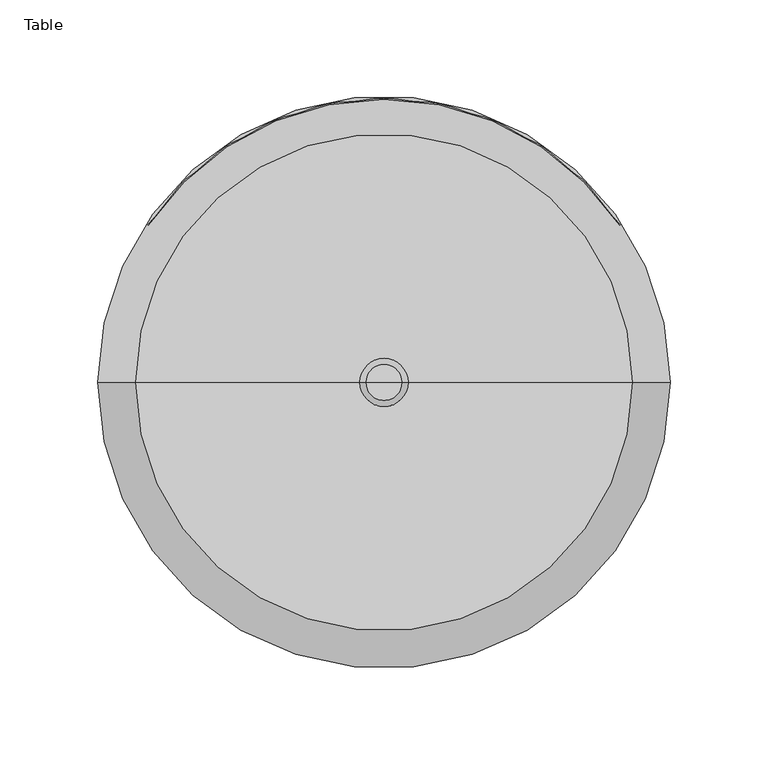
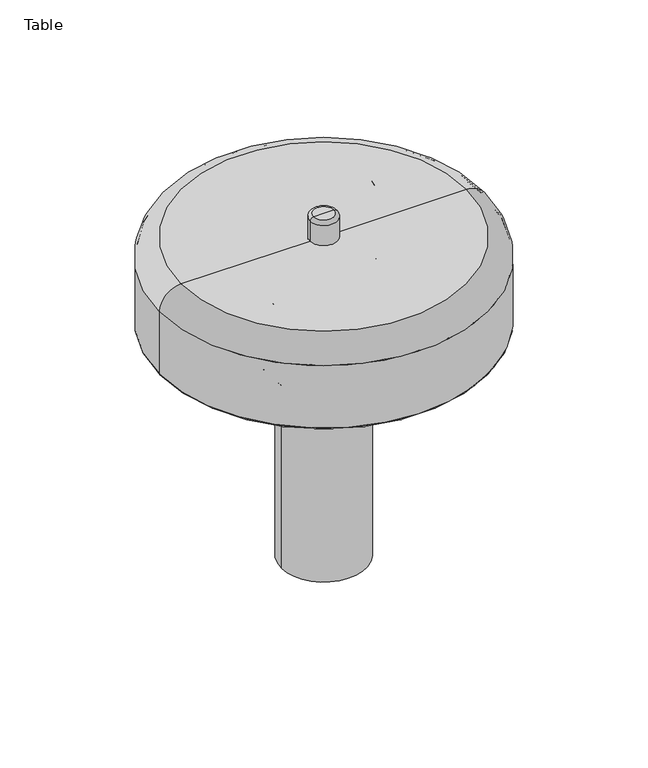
"""IFC4 building model written with IfcOpenShell, lengths in millimetres: furniture geometry, Blu Dot - Punk - Lamp : Table."""

from ifc_helpers import new_model, si_unit, point, frame, origin, origin_with_axes, origin_2d, place, context, project, spatial, polyline, circle_curve, ellipse_curve, trimmed, segment, composite_curve, outline, extrude, source, transform, mapped, element, save
from ifc_brep_helpers import plane_surface, cylinder_surface, revolved_surface, advanced_brep


def table_88db3fc4(model_context):
    return source(origin(), model_context, "Body", "SolidModel", [
        advanced_brep(
        [(-12.2418277, 0.0, 295.983939), (12.2418277, 0.0, 295.983939), (12.2418277, 0.0, 296.999939), (-12.2418277, 0.0, 296.999939), (126.9999924, 0.0, 296.999939), (-126.9999924, 0.0, 296.999939), (144.984, 0.0, 278.949939), (-144.984, 0.0, 278.949939), (144.984, 0.0, 219.9999542), (-144.984, 0.0, 219.9999542), (136.445816, 0.0, 219.9999542), (-136.445816, 0.0, 219.9999542), (136.445816, 0.0, 221.0159542), (-136.445816, 0.0, 221.0159542), (-126.9999924, 0.0, 295.983939), (126.9999924, 0.0, 295.983939), (-143.968, 0.0, 278.949939), (143.968, 0.0, 278.949939), (-143.968, 0.0, 221.0159542), (143.968, 0.0, 221.0159542)],
        [
            (0, 1, circle_curve(frame((0.0, 0.0, 295.983939), z_axis=(0.0, 0.0, -1.0), x_axis=(1.0, 0.0, 0.0)), 12.2418277)),
            (1, 2),
            (2, 3, circle_curve(frame((0.0, 0.0, 296.999939), z_axis=(0.0, 0.0, 1.0), x_axis=(1.0, 0.0, 0.0)), 12.2418277)),
            (3, 0),
            (1, 0, circle_curve(frame((0.0, 0.0, 295.983939), z_axis=(0.0, 0.0, -1.0), x_axis=(1.0, 0.0, 0.0)), 12.2418277)),
            (3, 2, circle_curve(frame((0.0, 0.0, 296.999939), z_axis=(0.0, 0.0, 1.0), x_axis=(1.0, 0.0, 0.0)), 12.2418277)),
            (2, 4),
            (4, 5, circle_curve(frame((0.0, 0.0, 296.999939), z_axis=(0.0, 0.0, 1.0), x_axis=(1.0, 0.0, 0.0)), 126.9999924)),
            (5, 3),
            (5, 4, circle_curve(frame((0.0, 0.0, 296.999939), z_axis=(0.0, 0.0, 1.0), x_axis=(1.0, 0.0, 0.0)), 126.9999924)),
            (4, 6, circle_curve(frame((126.95, 0.0, 278.949939), z_axis=(0.0, 1.0, 0.0), x_axis=(1.0, 0.0, 0.0)), 18.034)),
            (6, 7, circle_curve(frame((0.0, 0.0, 278.949939), z_axis=(0.0, 0.0, 1.0), x_axis=(1.0, 0.0, 0.0)), 144.984)),
            (7, 5, circle_curve(frame((-126.95, 0.0, 278.949939), z_axis=(0.0, 1.0, 0.0), x_axis=(-1.0, 0.0, 0.0)), 18.034)),
            (7, 6, circle_curve(frame((0.0, 0.0, 278.949939), z_axis=(0.0, 0.0, 1.0), x_axis=(1.0, 0.0, 0.0)), 144.984)),
            (6, 8),
            (8, 9, circle_curve(frame((0.0, 0.0, 219.9999542), z_axis=(0.0, 0.0, 1.0), x_axis=(1.0, 0.0, 0.0)), 144.984)),
            (9, 7),
            (9, 8, circle_curve(frame((0.0, 0.0, 219.9999542), z_axis=(0.0, 0.0, 1.0), x_axis=(1.0, 0.0, 0.0)), 144.984)),
            (8, 10),
            (10, 11, circle_curve(frame((0.0, 0.0, 219.9999542), z_axis=(0.0, 0.0, 1.0), x_axis=(1.0, 0.0, 0.0)), 136.445816)),
            (11, 9),
            (11, 10, circle_curve(frame((0.0, 0.0, 219.9999542), z_axis=(0.0, 0.0, 1.0), x_axis=(1.0, 0.0, 0.0)), 136.445816)),
            (10, 12),
            (12, 13, circle_curve(frame((0.0, 0.0, 221.0159542), z_axis=(0.0, 0.0, 1.0), x_axis=(1.0, 0.0, 0.0)), 136.445816)),
            (13, 11),
            (13, 12, circle_curve(frame((0.0, 0.0, 221.0159542), z_axis=(0.0, 0.0, 1.0), x_axis=(1.0, 0.0, 0.0)), 136.445816)),
            (14, 15, circle_curve(frame((0.0, 0.0, 295.983939), z_axis=(0.0, 0.0, -1.0), x_axis=(1.0, 0.0, 0.0)), 126.9999924)),
            (15, 1),
            (0, 14),
            (15, 14, circle_curve(frame((0.0, 0.0, 295.983939), z_axis=(0.0, 0.0, -1.0), x_axis=(1.0, 0.0, 0.0)), 126.9999924)),
            (16, 17, circle_curve(frame((0.0, 0.0, 278.949939), z_axis=(0.0, 0.0, -1.0), x_axis=(1.0, 0.0, 0.0)), 143.968)),
            (17, 15, circle_curve(frame((126.95, 0.0, 278.949939), z_axis=(0.0, -1.0, 0.0), x_axis=(1.0, 0.0, 0.0)), 17.018)),
            (14, 16, circle_curve(frame((-126.95, 0.0, 278.949939), z_axis=(0.0, -1.0, 0.0), x_axis=(-1.0, 0.0, 0.0)), 17.018)),
            (17, 16, circle_curve(frame((0.0, 0.0, 278.949939), z_axis=(0.0, 0.0, -1.0), x_axis=(1.0, 0.0, 0.0)), 143.968)),
            (18, 19, circle_curve(frame((0.0, 0.0, 221.0159542), z_axis=(0.0, 0.0, -1.0), x_axis=(1.0, 0.0, 0.0)), 143.968)),
            (19, 17),
            (16, 18),
            (19, 18, circle_curve(frame((0.0, 0.0, 221.0159542), z_axis=(0.0, 0.0, -1.0), x_axis=(1.0, 0.0, 0.0)), 143.968)),
            (12, 19),
            (18, 13),
        ],
        [
            revolved_surface(polyline([(12.2418277, 0.0, 296.999939), (12.2418277, 0.0, 295.983939)]), (0.0, 0.0, 355.149939), (0.0, 0.0, 1.0)),
            plane_surface(frame((0.0, 0.0, 296.999939), z_axis=(0.0, 0.0, 1.0), x_axis=(1.0, 0.0, 0.0))),
            revolved_surface(trimmed(ellipse_curve(frame((126.95, 0.0, 278.949939), z_axis=(0.0, -1.0, 0.0), x_axis=(1.0, 0.0, 0.0)), 18.034, 18.034), [point((144.984, 0.0, 278.949939))], [point((126.95, 0.0, 296.983939))], True, "CARTESIAN"), (0.0, 0.0, 355.149939), (0.0, 0.0, 1.0)),
            cylinder_surface(frame((0.0, 0.0, 355.149939), z_axis=(0.0, 0.0, 1.0), x_axis=(1.0, 0.0, 0.0)), 144.984),
            plane_surface(frame((0.0, 0.0, 219.9999542), z_axis=(0.0, 0.0, -1.0), x_axis=(1.0, 0.0, 0.0))),
            revolved_surface(polyline([(136.445816, 0.0, 221.0159542), (136.445816, 0.0, 219.9999542)]), (0.0, 0.0, 355.149939), (0.0, 0.0, 1.0)),
            plane_surface(frame((0.0, 0.0, 295.983939), z_axis=(0.0, 0.0, -1.0), x_axis=(1.0, 0.0, 0.0))),
            revolved_surface(trimmed(ellipse_curve(frame((126.95, 0.0, 278.949939), z_axis=(0.0, 1.0, 0.0), x_axis=(1.0, 0.0, 0.0)), 17.018, 17.018), [point((126.95, 0.0, 295.967939))], [point((143.968, 0.0, 278.949939))], True, "CARTESIAN"), (0.0, 0.0, 355.149939), (0.0, 0.0, 1.0)),
            revolved_surface(polyline([(143.968, 0.0, 278.949939), (143.968, 0.0, 221.0159542)]), (0.0, 0.0, 355.149939), (0.0, 0.0, 1.0)),
            plane_surface(frame((0.0, 0.0, 221.0159542), z_axis=(0.0, 0.0, 1.0), x_axis=(1.0, 0.0, 0.0))),
        ],
        [
            (0, [[1, 2, 3, 4]]),
            (0, [[5, -4, 6, -2]]),
            (1, [[-3, 7, 8, 9]]),
            (1, [[-6, -9, 10, -7]]),
            (2, [[-8, 11, 12, 13]]),
            (2, [[-10, -13, 14, -11]]),
            (3, [[-12, 15, 16, 17]]),
            (3, [[-14, -17, 18, -15]]),
            (4, [[-16, 19, 20, 21]]),
            (4, [[-18, -21, 22, -19]]),
            (5, [[-20, 23, 24, 25]]),
            (5, [[-22, -25, 26, -23]]),
            (6, [[27, 28, -1, 29]]),
            (6, [[30, -29, -5, -28]]),
            (7, [[31, 32, -27, 33]]),
            (7, [[34, -33, -30, -32]]),
            (8, [[35, 36, -31, 37]]),
            (8, [[38, -37, -34, -36]]),
            (9, [[-24, 39, -35, 40]]),
            (9, [[-26, -40, -38, -39]]),
        ],
    ),
        advanced_brep(
        [(-84.4999695, -75.9999847, 237.5251263), (-84.4999695, -75.9999847, 276.4748126), (-81.4748432, -75.9999847, 279.499939), (-81.4748432, -75.9999847, 234.5), (-84.4999695, -75.9999847, 251.3499756), (-84.4999695, -75.9999847, 262.6499634), (-85.4999695, -75.9999847, 251.3499756), (-85.4999695, -75.9999847, 262.6499634), (-85.4999695, -75.9999847, 256.9999695), (-20.4999809, -75.9999847, 279.499939), (-20.4999809, -75.9999847, 234.5), (-81.4999924, -75.9999847, 238.1942937), (-81.4999924, -75.9999847, 275.8056453), (-81.4999924, -75.9999847, 256.9999695), (-20.4999809, -75.9999847, 236.0797424), (-20.4999809, -75.9999847, 277.9201965), (-24.0000059, -75.9999847, 277.9201965), (-24.0000059, -75.9999847, 236.0797424), (-24.0000059, -75.9999847, 238.1942937), (-24.0000059, -75.9999847, 275.8056453)],
        [
            (0, 1, circle_curve(frame((-84.4999695, -75.9999847, 256.9999695), z_axis=(1.0, 0.0, 0.0), x_axis=(0.0, 0.0, 1.0)), 19.4748432)),
            (1, 2, circle_curve(frame((-81.4748432, -75.9999847, 276.4748126), z_axis=(0.0, 1.0, 0.0), x_axis=(1.0, 0.0, 0.0)), 3.0251263)),
            (2, 3, circle_curve(frame((-81.4748432, -75.9999847, 256.9999695), z_axis=(-1.0, 0.0, 0.0), x_axis=(0.0, 0.0, 1.0)), 22.4999695)),
            (3, 0, circle_curve(frame((-81.4748432, -75.9999847, 237.5251263), z_axis=(0.0, 1.0, 0.0), x_axis=(1.0, 0.0, 0.0)), 3.0251263)),
            (1, 0, circle_curve(frame((-84.4999695, -75.9999847, 256.9999695), z_axis=(1.0, 0.0, 0.0), x_axis=(0.0, 0.0, 1.0)), 19.4748432)),
            (3, 2, circle_curve(frame((-81.4748432, -75.9999847, 256.9999695), z_axis=(-1.0, 0.0, 0.0), x_axis=(0.0, 0.0, 1.0)), 22.4999695)),
            (4, 5, circle_curve(frame((-84.4999695, -75.9999847, 256.9999695), z_axis=(1.0, 0.0, 0.0), x_axis=(0.0, 0.0, 1.0)), 5.6499939)),
            (5, 1),
            (0, 4),
            (5, 4, circle_curve(frame((-84.4999695, -75.9999847, 256.9999695), z_axis=(1.0, 0.0, 0.0), x_axis=(0.0, 0.0, 1.0)), 5.6499939)),
            (6, 7, circle_curve(frame((-85.4999695, -75.9999847, 256.9999695), z_axis=(1.0, 0.0, 0.0), x_axis=(0.0, 0.0, 1.0)), 5.6499939)),
            (7, 5),
            (4, 6),
            (7, 6, circle_curve(frame((-85.4999695, -75.9999847, 256.9999695), z_axis=(1.0, 0.0, 0.0), x_axis=(0.0, 0.0, 1.0)), 5.6499939)),
            (8, 7),
            (6, 8),
            (2, 9),
            (9, 10, circle_curve(frame((-20.4999809, -75.9999847, 256.9999695), z_axis=(-1.0, 0.0, 0.0), x_axis=(0.0, 0.0, 1.0)), 22.4999695)),
            (10, 3),
            (10, 9, circle_curve(frame((-20.4999809, -75.9999847, 256.9999695), z_axis=(-1.0, 0.0, 0.0), x_axis=(0.0, 0.0, 1.0)), 22.4999695)),
            (11, 12, circle_curve(frame((-81.4999924, -75.9999847, 256.9999695), z_axis=(1.0, 0.0, 0.0), x_axis=(0.0, 0.0, 1.0)), 18.8056758)),
            (12, 13),
            (13, 11),
            (12, 11, circle_curve(frame((-81.4999924, -75.9999847, 256.9999695), z_axis=(1.0, 0.0, 0.0), x_axis=(0.0, 0.0, 1.0)), 18.8056758)),
            (14, 15, circle_curve(frame((-20.4999809, -75.9999847, 256.9999695), z_axis=(1.0, 0.0, 0.0), x_axis=(0.0, 0.0, 1.0)), 20.9202271)),
            (15, 16),
            (16, 17, circle_curve(frame((-24.0000059, -75.9999847, 256.9999695), z_axis=(-1.0, 0.0, 0.0), x_axis=(0.0, 0.0, 1.0)), 20.9202271)),
            (17, 14),
            (15, 14, circle_curve(frame((-20.4999809, -75.9999847, 256.9999695), z_axis=(1.0, 0.0, 0.0), x_axis=(0.0, 0.0, 1.0)), 20.9202271)),
            (17, 16, circle_curve(frame((-24.0000059, -75.9999847, 256.9999695), z_axis=(-1.0, 0.0, 0.0), x_axis=(0.0, 0.0, 1.0)), 20.9202271)),
            (9, 15),
            (14, 10),
            (18, 19, circle_curve(frame((-24.0000059, -75.9999847, 256.9999695), z_axis=(1.0, 0.0, 0.0), x_axis=(0.0, 0.0, 1.0)), 18.8056758)),
            (19, 12),
            (11, 18),
            (19, 18, circle_curve(frame((-24.0000059, -75.9999847, 256.9999695), z_axis=(1.0, 0.0, 0.0), x_axis=(0.0, 0.0, 1.0)), 18.8056758)),
            (16, 19),
            (18, 17),
        ],
        [
            revolved_surface(trimmed(ellipse_curve(frame((-81.4748432, -75.9999847, 276.4748126), z_axis=(0.0, -1.0, 0.0), x_axis=(1.0, 0.0, 0.0)), 3.0251263, 3.0251263), [point((-81.4748432, -75.9999847, 279.499939))], [point((-84.4999695, -75.9999847, 276.4748126))], True, "CARTESIAN"), (-85.4999695, -75.9999847, 256.9999695), (-1.0, 0.0, 0.0)),
            plane_surface(frame((-84.4999695, -75.9999847, 256.9999695), z_axis=(-1.0, 0.0, 0.0), x_axis=(0.0, 0.0, 1.0))),
            cylinder_surface(frame((-85.4999695, -75.9999847, 256.9999695), z_axis=(-1.0, 0.0, 0.0), x_axis=(0.0, 0.0, 1.0)), 5.6499939),
            plane_surface(frame((-85.4999695, -75.9999847, 256.9999695), z_axis=(-1.0, 0.0, 0.0), x_axis=(0.0, 0.0, 1.0))),
            cylinder_surface(frame((-85.4999695, -75.9999847, 256.9999695), z_axis=(-1.0, 0.0, 0.0), x_axis=(0.0, 0.0, 1.0)), 22.4999695),
            plane_surface(frame((-81.4999924, -75.9999847, 256.9999695), z_axis=(1.0, 0.0, 0.0), x_axis=(0.0, 0.0, 1.0))),
            revolved_surface(polyline([(-24.000005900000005, -75.9999847, 277.9201966), (-20.499980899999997, -75.9999847, 277.9201966)]), (-85.4999695, -75.9999847, 256.9999695), (-1.0, 0.0, 0.0)),
            plane_surface(frame((-20.4999809, -75.9999847, 256.9999695), z_axis=(1.0, 0.0, 0.0), x_axis=(0.0, 0.0, 1.0))),
            revolved_surface(polyline([(-81.4999924, -75.9999847, 275.80564530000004), (-24.000005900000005, -75.9999847, 275.80564530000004)]), (-85.4999695, -75.9999847, 256.9999695), (-1.0, 0.0, 0.0)),
            plane_surface(frame((-24.0000059, -75.9999847, 256.9999695), z_axis=(1.0, 0.0, 0.0), x_axis=(0.0, 0.0, 1.0))),
        ],
        [
            (0, [[1, 2, 3, 4]]),
            (0, [[5, -4, 6, -2]]),
            (1, [[7, 8, -1, 9]]),
            (1, [[10, -9, -5, -8]]),
            (2, [[11, 12, -7, 13]]),
            (2, [[14, -13, -10, -12]]),
            (3, [[15, -11, 16]]),
            (3, [[-16, -14, -15]]),
            (4, [[-3, 17, 18, 19]]),
            (4, [[-6, -19, 20, -17]]),
            (5, [[21, 22, 23]]),
            (5, [[24, -23, -22]]),
            (6, [[25, 26, 27, 28]]),
            (6, [[29, -28, 30, -26]]),
            (7, [[-18, 31, -25, 32]]),
            (7, [[-20, -32, -29, -31]]),
            (8, [[33, 34, -21, 35]]),
            (8, [[36, -35, -24, -34]]),
            (9, [[-27, 37, -33, 38]]),
            (9, [[-30, -38, -36, -37]]),
        ],
    ),
        advanced_brep(
        [(45.4998869, -4.6316312, 257.0166256), (45.4998869, 4.6316312, 257.0166256), (85.4998004, -4.6316312, 257.0166256), (85.4998004, 4.6316312, 257.0166256), (85.4998004, 71.3683536, 257.0166256), (85.4998004, 80.6316159, 257.0166256), (84.4999695, 80.6316159, 257.0166256), (84.4999695, 71.3683536, 257.0166256)],
        [
            (0, 1, circle_curve(frame((45.4998869, 0.0, 257.0166256), z_axis=(-1.0, 0.0, 0.0), x_axis=(0.0, 1.0, 0.0)), 4.6316312)),
            (1, 0, circle_curve(frame((45.4998869, 0.0, 257.0166256), z_axis=(-1.0, 0.0, 0.0), x_axis=(0.0, 1.0, 0.0)), 4.6316312)),
            (0, 2),
            (2, 3, circle_curve(frame((85.4998004, 0.0, 257.0166256), z_axis=(-1.0, 0.0, 0.0), x_axis=(0.0, 1.0, 0.0)), 4.6316312)),
            (3, 1),
            (3, 2, circle_curve(frame((85.4998004, 0.0, 257.0166256), z_axis=(-1.0, 0.0, 0.0), x_axis=(0.0, 1.0, 0.0)), 4.6316312)),
            (4, 3, circle_curve(frame((85.4998004, 37.9999924, 257.0166256), z_axis=(0.0, 0.0, -1.0), x_axis=(0.0, -1.0, 0.0)), 33.3683612)),
            (2, 5, circle_curve(frame((85.4998004, 37.9999924, 257.0166256), z_axis=(0.0, 0.0, 1.0), x_axis=(0.0, -1.0, 0.0)), 42.6316235)),
            (5, 4, circle_curve(frame((85.4998004, 75.9999847, 257.0166256), z_axis=(1.0, 0.0, 0.0), x_axis=(0.0, -1.0, 0.0)), 4.6316312)),
            (4, 5, circle_curve(frame((85.4998004, 75.9999847, 257.0166256), z_axis=(1.0, 0.0, 0.0), x_axis=(0.0, -1.0, 0.0)), 4.6316312)),
            (6, 7, circle_curve(frame((84.4999695, 75.9999847, 257.0166256), z_axis=(-1.0, 0.0, 0.0), x_axis=(0.0, -1.0, 0.0)), 4.6316312)),
            (7, 6, circle_curve(frame((84.4999695, 75.9999847, 257.0166256), z_axis=(-1.0, 0.0, 0.0), x_axis=(0.0, -1.0, 0.0)), 4.6316312)),
            (5, 6),
            (7, 4),
        ],
        [
            plane_surface(frame((45.4998869, 0.0, 0.0), z_axis=(-1.0, 0.0, 0.0), x_axis=(0.0, 0.0, 1.0))),
            cylinder_surface(frame((45.4998869, 0.0, 257.0166256), z_axis=(-1.0, 0.0, 0.0), x_axis=(0.0, 1.0, 0.0)), 4.6316312),
            revolved_surface(trimmed(ellipse_curve(frame((85.4998004, 0.0, 257.0166256), z_axis=(-1.0, 0.0, 0.0), x_axis=(0.0, 1.0, 0.0)), 4.6316312, 4.6316312), [point((85.4998004, -4.6316312, 257.0166256))], [point((85.4998004, 4.6316312, 257.0166256))], True, "CARTESIAN"), (85.4998004, 37.9999924, 0.0), (0.0, 0.0, 1.0)),
            revolved_surface(trimmed(ellipse_curve(frame((85.4998004, 0.0, 257.0166256), z_axis=(-1.0, 0.0, 0.0), x_axis=(0.0, 1.0, 0.0)), 4.6316312, 4.6316312), [point((85.4998004, 4.6316312, 257.0166256))], [point((85.4998004, -4.6316312, 257.0166256))], True, "CARTESIAN"), (85.4998004, 37.9999924, 0.0), (0.0, 0.0, 1.0)),
            plane_surface(frame((84.4999695, 75.9999847, 0.0), z_axis=(-1.0, 0.0, 0.0), x_axis=(0.0, 0.0, 1.0))),
            cylinder_surface(frame((85.4998004, 75.9999847, 257.0166256), z_axis=(1.0, 0.0, 0.0), x_axis=(0.0, -1.0, 0.0)), 4.6316312),
        ],
        [
            (0, [[1, 2]]),
            (1, [[-1, 3, 4, 5]]),
            (1, [[-2, -5, 6, -3]]),
            (2, [[7, -4, 8, 9]]),
            (3, [[-8, -6, -7, 10]]),
            (4, [[11, 12]]),
            (5, [[-9, 13, -12, 14]]),
            (5, [[-10, -14, -11, -13]]),
        ],
    ),
        advanced_brep(
        [(-45.4998869, 4.6316312, 257.0166256), (-45.4998869, -4.6316312, 257.0166256), (-85.4998004, 4.6316312, 257.0166256), (-85.4998004, -4.6316312, 257.0166256), (-85.4998004, -71.3683536, 257.0166256), (-85.4998004, -80.6316159, 257.0166256), (-84.4999695, -80.6316159, 257.0166256), (-84.4999695, -71.3683536, 257.0166256)],
        [
            (0, 1, circle_curve(frame((-45.4998869, 0.0, 257.0166256), z_axis=(1.0, 0.0, 0.0), x_axis=(0.0, -1.0, 0.0)), 4.6316312)),
            (1, 0, circle_curve(frame((-45.4998869, 0.0, 257.0166256), z_axis=(1.0, 0.0, 0.0), x_axis=(0.0, -1.0, 0.0)), 4.6316312)),
            (0, 2),
            (2, 3, circle_curve(frame((-85.4998004, 0.0, 257.0166256), z_axis=(1.0, 0.0, 0.0), x_axis=(0.0, -1.0, 0.0)), 4.6316312)),
            (3, 1),
            (3, 2, circle_curve(frame((-85.4998004, 0.0, 257.0166256), z_axis=(1.0, 0.0, 0.0), x_axis=(0.0, -1.0, 0.0)), 4.6316312)),
            (4, 3, circle_curve(frame((-85.4998004, -37.9999924, 257.0166256), z_axis=(0.0, 0.0, -1.0), x_axis=(0.0, 1.0, 0.0)), 33.3683612)),
            (2, 5, circle_curve(frame((-85.4998004, -37.9999924, 257.0166256), z_axis=(0.0, 0.0, 1.0), x_axis=(0.0, 1.0, 0.0)), 42.6316235)),
            (5, 4, circle_curve(frame((-85.4998004, -75.9999847, 257.0166256), z_axis=(-1.0, 0.0, 0.0), x_axis=(0.0, 1.0, 0.0)), 4.6316312)),
            (4, 5, circle_curve(frame((-85.4998004, -75.9999847, 257.0166256), z_axis=(-1.0, 0.0, 0.0), x_axis=(0.0, 1.0, 0.0)), 4.6316312)),
            (6, 7, circle_curve(frame((-84.4999695, -75.9999847, 257.0166256), z_axis=(1.0, 0.0, 0.0), x_axis=(0.0, 1.0, 0.0)), 4.6316312)),
            (7, 6, circle_curve(frame((-84.4999695, -75.9999847, 257.0166256), z_axis=(1.0, 0.0, 0.0), x_axis=(0.0, 1.0, 0.0)), 4.6316312)),
            (5, 6),
            (7, 4),
        ],
        [
            plane_surface(frame((-45.4998869, 0.0, 0.0), z_axis=(1.0, 0.0, 0.0), x_axis=(0.0, 0.0, 1.0))),
            cylinder_surface(frame((-45.4998869, 0.0, 257.0166256), z_axis=(1.0, 0.0, 0.0), x_axis=(0.0, -1.0, 0.0)), 4.6316312),
            revolved_surface(trimmed(ellipse_curve(frame((-85.4998004, 0.0, 257.0166256), z_axis=(1.0, 0.0, 0.0), x_axis=(0.0, -1.0, 0.0)), 4.6316312, 4.6316312), [point((-85.4998004, 4.6316312, 257.0166256))], [point((-85.4998004, -4.6316312, 257.0166256))], True, "CARTESIAN"), (-85.4998004, -37.9999924, 0.0), (0.0, 0.0, 1.0)),
            revolved_surface(trimmed(ellipse_curve(frame((-85.4998004, 0.0, 257.0166256), z_axis=(1.0, 0.0, 0.0), x_axis=(0.0, -1.0, 0.0)), 4.6316312, 4.6316312), [point((-85.4998004, -4.6316312, 257.0166256))], [point((-85.4998004, 4.6316312, 257.0166256))], True, "CARTESIAN"), (-85.4998004, -37.9999924, 0.0), (0.0, 0.0, 1.0)),
            plane_surface(frame((-84.4999695, -75.9999847, 0.0), z_axis=(1.0, 0.0, 0.0), x_axis=(0.0, 0.0, 1.0))),
            cylinder_surface(frame((-85.4998004, -75.9999847, 257.0166256), z_axis=(-1.0, 0.0, 0.0), x_axis=(0.0, 1.0, 0.0)), 4.6316312),
        ],
        [
            (0, [[1, 2]]),
            (1, [[-1, 3, 4, 5]]),
            (1, [[-2, -5, 6, -3]]),
            (2, [[7, -4, 8, 9]]),
            (3, [[-8, -6, -7, 10]]),
            (4, [[11, 12]]),
            (5, [[-9, 13, -12, 14]]),
            (5, [[-10, -14, -11, -13]]),
        ],
    ),
        advanced_brep(
        [(84.4999695, 75.9999847, 237.5251263), (84.4999695, 75.9999847, 276.4748126), (81.4748432, 75.9999847, 279.499939), (81.4748432, 75.9999847, 234.5), (84.4999695, 75.9999847, 251.3499756), (84.4999695, 75.9999847, 262.6499634), (85.4999695, 75.9999847, 251.3499756), (85.4999695, 75.9999847, 262.6499634), (85.4999695, 75.9999847, 256.9999695), (20.4999809, 75.9999847, 279.499939), (20.4999809, 75.9999847, 234.5), (81.4999924, 75.9999847, 238.1942937), (81.4999924, 75.9999847, 275.8056453), (81.4999924, 75.9999847, 256.9999695), (20.4999809, 75.9999847, 236.0797424), (20.4999809, 75.9999847, 277.9201965), (24.0000059, 75.9999847, 277.9201965), (24.0000059, 75.9999847, 236.0797424), (24.0000059, 75.9999847, 238.1942937), (24.0000059, 75.9999847, 275.8056453)],
        [
            (0, 1, circle_curve(frame((84.4999695, 75.9999847, 256.9999695), z_axis=(-1.0, 0.0, 0.0), x_axis=(0.0, 0.0, 1.0)), 19.4748432)),
            (1, 2, circle_curve(frame((81.4748432, 75.9999847, 276.4748126), z_axis=(0.0, -1.0, 0.0), x_axis=(-1.0, 0.0, 0.0)), 3.0251263)),
            (2, 3, circle_curve(frame((81.4748432, 75.9999847, 256.9999695), z_axis=(1.0, 0.0, 0.0), x_axis=(0.0, 0.0, 1.0)), 22.4999695)),
            (3, 0, circle_curve(frame((81.4748432, 75.9999847, 237.5251263), z_axis=(0.0, -1.0, 0.0), x_axis=(-1.0, 0.0, 0.0)), 3.0251263)),
            (1, 0, circle_curve(frame((84.4999695, 75.9999847, 256.9999695), z_axis=(-1.0, 0.0, 0.0), x_axis=(0.0, 0.0, 1.0)), 19.4748432)),
            (3, 2, circle_curve(frame((81.4748432, 75.9999847, 256.9999695), z_axis=(1.0, 0.0, 0.0), x_axis=(0.0, 0.0, 1.0)), 22.4999695)),
            (4, 5, circle_curve(frame((84.4999695, 75.9999847, 256.9999695), z_axis=(-1.0, 0.0, 0.0), x_axis=(0.0, 0.0, 1.0)), 5.6499939)),
            (5, 1),
            (0, 4),
            (5, 4, circle_curve(frame((84.4999695, 75.9999847, 256.9999695), z_axis=(-1.0, 0.0, 0.0), x_axis=(0.0, 0.0, 1.0)), 5.6499939)),
            (6, 7, circle_curve(frame((85.4999695, 75.9999847, 256.9999695), z_axis=(-1.0, 0.0, 0.0), x_axis=(0.0, 0.0, 1.0)), 5.6499939)),
            (7, 5),
            (4, 6),
            (7, 6, circle_curve(frame((85.4999695, 75.9999847, 256.9999695), z_axis=(-1.0, 0.0, 0.0), x_axis=(0.0, 0.0, 1.0)), 5.6499939)),
            (8, 7),
            (6, 8),
            (2, 9),
            (9, 10, circle_curve(frame((20.4999809, 75.9999847, 256.9999695), z_axis=(1.0, 0.0, 0.0), x_axis=(0.0, 0.0, 1.0)), 22.4999695)),
            (10, 3),
            (10, 9, circle_curve(frame((20.4999809, 75.9999847, 256.9999695), z_axis=(1.0, 0.0, 0.0), x_axis=(0.0, 0.0, 1.0)), 22.4999695)),
            (11, 12, circle_curve(frame((81.4999924, 75.9999847, 256.9999695), z_axis=(-1.0, 0.0, 0.0), x_axis=(0.0, 0.0, 1.0)), 18.8056758)),
            (12, 13),
            (13, 11),
            (12, 11, circle_curve(frame((81.4999924, 75.9999847, 256.9999695), z_axis=(-1.0, 0.0, 0.0), x_axis=(0.0, 0.0, 1.0)), 18.8056758)),
            (14, 15, circle_curve(frame((20.4999809, 75.9999847, 256.9999695), z_axis=(-1.0, 0.0, 0.0), x_axis=(0.0, 0.0, 1.0)), 20.9202271)),
            (15, 16),
            (16, 17, circle_curve(frame((24.0000059, 75.9999847, 256.9999695), z_axis=(1.0, 0.0, 0.0), x_axis=(0.0, 0.0, 1.0)), 20.9202271)),
            (17, 14),
            (15, 14, circle_curve(frame((20.4999809, 75.9999847, 256.9999695), z_axis=(-1.0, 0.0, 0.0), x_axis=(0.0, 0.0, 1.0)), 20.9202271)),
            (17, 16, circle_curve(frame((24.0000059, 75.9999847, 256.9999695), z_axis=(1.0, 0.0, 0.0), x_axis=(0.0, 0.0, 1.0)), 20.9202271)),
            (9, 15),
            (14, 10),
            (18, 19, circle_curve(frame((24.0000059, 75.9999847, 256.9999695), z_axis=(-1.0, 0.0, 0.0), x_axis=(0.0, 0.0, 1.0)), 18.8056758)),
            (19, 12),
            (11, 18),
            (19, 18, circle_curve(frame((24.0000059, 75.9999847, 256.9999695), z_axis=(-1.0, 0.0, 0.0), x_axis=(0.0, 0.0, 1.0)), 18.8056758)),
            (16, 19),
            (18, 17),
        ],
        [
            revolved_surface(trimmed(ellipse_curve(frame((81.4748432, 75.9999847, 276.4748126), z_axis=(0.0, 1.0, 0.0), x_axis=(-1.0, 0.0, 0.0)), 3.0251263, 3.0251263), [point((81.4748432, 75.9999847, 279.499939))], [point((84.4999695, 75.9999847, 276.4748126))], True, "CARTESIAN"), (85.4999695, 75.9999847, 256.9999695), (1.0, 0.0, 0.0)),
            plane_surface(frame((84.4999695, 75.9999847, 256.9999695), z_axis=(1.0, 0.0, 0.0), x_axis=(0.0, 0.0, 1.0))),
            cylinder_surface(frame((85.4999695, 75.9999847, 256.9999695), z_axis=(1.0, 0.0, 0.0), x_axis=(0.0, 0.0, 1.0)), 5.6499939),
            plane_surface(frame((85.4999695, 75.9999847, 256.9999695), z_axis=(1.0, 0.0, 0.0), x_axis=(0.0, 0.0, 1.0))),
            cylinder_surface(frame((85.4999695, 75.9999847, 256.9999695), z_axis=(1.0, 0.0, 0.0), x_axis=(0.0, 0.0, 1.0)), 22.4999695),
            plane_surface(frame((81.4999924, 75.9999847, 256.9999695), z_axis=(-1.0, 0.0, 0.0), x_axis=(0.0, 0.0, 1.0))),
            revolved_surface(polyline([(24.000005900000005, 75.9999847, 277.9201966), (20.499980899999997, 75.9999847, 277.9201966)]), (85.4999695, 75.9999847, 256.9999695), (1.0, 0.0, 0.0)),
            plane_surface(frame((20.4999809, 75.9999847, 256.9999695), z_axis=(-1.0, 0.0, 0.0), x_axis=(0.0, 0.0, 1.0))),
            revolved_surface(polyline([(81.4999924, 75.9999847, 275.80564530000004), (24.000005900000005, 75.9999847, 275.80564530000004)]), (85.4999695, 75.9999847, 256.9999695), (1.0, 0.0, 0.0)),
            plane_surface(frame((24.0000059, 75.9999847, 256.9999695), z_axis=(-1.0, 0.0, 0.0), x_axis=(0.0, 0.0, 1.0))),
        ],
        [
            (0, [[1, 2, 3, 4]]),
            (0, [[5, -4, 6, -2]]),
            (1, [[7, 8, -1, 9]]),
            (1, [[10, -9, -5, -8]]),
            (2, [[11, 12, -7, 13]]),
            (2, [[14, -13, -10, -12]]),
            (3, [[15, -11, 16]]),
            (3, [[-16, -14, -15]]),
            (4, [[-3, 17, 18, 19]]),
            (4, [[-6, -19, 20, -17]]),
            (5, [[21, 22, 23]]),
            (5, [[24, -23, -22]]),
            (6, [[25, 26, 27, 28]]),
            (6, [[29, -28, 30, -26]]),
            (7, [[-18, 31, -25, 32]]),
            (7, [[-20, -32, -29, -31]]),
            (8, [[33, 34, -21, 35]]),
            (8, [[36, -35, -24, -34]]),
            (9, [[-27, 37, -33, 38]]),
            (9, [[-30, -38, -36, -37]]),
        ],
    ),
        advanced_brep(
        [(27.4999828, 0.0, 256.9999695), (27.4999828, 0.0, 263.4999695), (27.4999828, 0.0, 250.4999695), (44.5308599, 0.0, 263.4999695), (44.5308599, 0.0, 250.4999695), (45.4999809, 0.0, 262.5308485), (45.4999809, 0.0, 251.4690905), (45.4999809, 0.0, 256.9999695)],
        [
            (0, 1),
            (1, 2, circle_curve(frame((27.4999828, 0.0, 256.9999695), z_axis=(-1.0, 0.0, 0.0), x_axis=(0.0, 0.0, 1.0)), 6.5)),
            (2, 0),
            (2, 1, circle_curve(frame((27.4999828, 0.0, 256.9999695), z_axis=(-1.0, 0.0, 0.0), x_axis=(0.0, 0.0, 1.0)), 6.5)),
            (1, 3),
            (3, 4, circle_curve(frame((44.5308599, 0.0, 256.9999695), z_axis=(-1.0, 0.0, 0.0), x_axis=(0.0, 0.0, 1.0)), 6.5)),
            (4, 2),
            (4, 3, circle_curve(frame((44.5308599, 0.0, 256.9999695), z_axis=(-1.0, 0.0, 0.0), x_axis=(0.0, 0.0, 1.0)), 6.5)),
            (3, 5, circle_curve(frame((44.5308599, 0.0, 262.5308485), z_axis=(0.0, 1.0, 0.0), x_axis=(-1.0, 0.0, 0.0)), 0.969121)),
            (5, 6, circle_curve(frame((45.4999809, 0.0, 256.9999695), z_axis=(-1.0, 0.0, 0.0), x_axis=(0.0, 0.0, 1.0)), 5.530879)),
            (6, 4, circle_curve(frame((44.5308599, 0.0, 251.4690905), z_axis=(0.0, 1.0, 0.0), x_axis=(-1.0, 0.0, 0.0)), 0.969121)),
            (6, 5, circle_curve(frame((45.4999809, 0.0, 256.9999695), z_axis=(-1.0, 0.0, 0.0), x_axis=(0.0, 0.0, 1.0)), 5.530879)),
            (5, 7),
            (7, 6),
        ],
        [
            plane_surface(frame((27.4999828, 0.0, 256.9999695), z_axis=(-1.0, 0.0, 0.0), x_axis=(0.0, 0.0, 1.0))),
            cylinder_surface(frame((27.4999828, 0.0, 256.9999695), z_axis=(-1.0, 0.0, 0.0), x_axis=(0.0, 0.0, 1.0)), 6.5),
            revolved_surface(trimmed(ellipse_curve(frame((44.5308599, 0.0, 262.5308485), z_axis=(0.0, -1.0, 0.0), x_axis=(-1.0, 0.0, 0.0)), 0.969121, 0.969121), [point((45.4999809, 0.0, 262.5308485))], [point((44.5308599, 0.0, 263.4999695))], True, "CARTESIAN"), (27.4999828, 0.0, 256.9999695), (-1.0, 0.0, 0.0)),
            plane_surface(frame((45.4999809, 0.0, 256.9999695), z_axis=(1.0, 0.0, 0.0), x_axis=(0.0, 0.0, 1.0))),
        ],
        [
            (0, [[1, 2, 3]]),
            (0, [[-3, 4, -1]]),
            (1, [[-2, 5, 6, 7]]),
            (1, [[-4, -7, 8, -5]]),
            (2, [[-6, 9, 10, 11]]),
            (2, [[-8, -11, 12, -9]]),
            (3, [[-10, 13, 14]]),
            (3, [[-12, -14, -13]]),
        ],
    ),
        advanced_brep(
        [(-27.4999828, 0.0, 250.4999695), (-27.4999828, 0.0, 263.4999695), (-27.4999828, 0.0, 256.9999695), (-44.5308599, 0.0, 250.4999695), (-44.5308599, 0.0, 263.4999695), (-45.4999809, 0.0, 251.4690905), (-45.4999809, 0.0, 262.5308485), (-45.4999809, 0.0, 256.9999695)],
        [
            (0, 1, circle_curve(frame((-27.4999828, 0.0, 256.9999695), z_axis=(1.0, 0.0, 0.0), x_axis=(0.0, 0.0, 1.0)), 6.5)),
            (1, 2),
            (2, 0),
            (1, 0, circle_curve(frame((-27.4999828, 0.0, 256.9999695), z_axis=(1.0, 0.0, 0.0), x_axis=(0.0, 0.0, 1.0)), 6.5)),
            (3, 4, circle_curve(frame((-44.5308599, 0.0, 256.9999695), z_axis=(1.0, 0.0, 0.0), x_axis=(0.0, 0.0, 1.0)), 6.5)),
            (4, 1),
            (0, 3),
            (4, 3, circle_curve(frame((-44.5308599, 0.0, 256.9999695), z_axis=(1.0, 0.0, 0.0), x_axis=(0.0, 0.0, 1.0)), 6.5)),
            (5, 6, circle_curve(frame((-45.4999809, 0.0, 256.9999695), z_axis=(1.0, 0.0, 0.0), x_axis=(0.0, 0.0, 1.0)), 5.530879)),
            (6, 4, circle_curve(frame((-44.5308599, 0.0, 262.5308485), z_axis=(0.0, 1.0, 0.0), x_axis=(1.0, 0.0, 0.0)), 0.969121)),
            (3, 5, circle_curve(frame((-44.5308599, 0.0, 251.4690905), z_axis=(0.0, 1.0, 0.0), x_axis=(1.0, 0.0, 0.0)), 0.969121)),
            (6, 5, circle_curve(frame((-45.4999809, 0.0, 256.9999695), z_axis=(1.0, 0.0, 0.0), x_axis=(0.0, 0.0, 1.0)), 5.530879)),
            (7, 6),
            (5, 7),
        ],
        [
            plane_surface(frame((-27.4999828, 0.0, 256.9999695), z_axis=(1.0, 0.0, 0.0), x_axis=(0.0, 0.0, 1.0))),
            cylinder_surface(frame((-27.4999828, 0.0, 256.9999695), z_axis=(-1.0, 0.0, 0.0), x_axis=(0.0, 0.0, 1.0)), 6.5),
            revolved_surface(trimmed(ellipse_curve(frame((-44.5308599, 0.0, 262.5308485), z_axis=(0.0, -1.0, 0.0), x_axis=(1.0, 0.0, 0.0)), 0.969121, 0.969121), [point((-44.5308599, 0.0, 263.4999695))], [point((-45.4999809, 0.0, 262.5308485))], True, "CARTESIAN"), (-27.4999828, 0.0, 256.9999695), (-1.0, 0.0, 0.0)),
            plane_surface(frame((-45.4999809, 0.0, 256.9999695), z_axis=(-1.0, 0.0, 0.0), x_axis=(0.0, 0.0, 1.0))),
        ],
        [
            (0, [[1, 2, 3]]),
            (0, [[4, -3, -2]]),
            (1, [[5, 6, -1, 7]]),
            (1, [[8, -7, -4, -6]]),
            (2, [[9, 10, -5, 11]]),
            (2, [[12, -11, -8, -10]]),
            (3, [[13, -9, 14]]),
            (3, [[-14, -12, -13]]),
        ],
    ),
        advanced_brep(
        [(-126.95, 0.0, 297.999939), (126.95, 0.0, 297.999939), (146.0, 0.0, 278.949939), (-146.0, 0.0, 278.949939), (-12.2418277, 0.0, 297.999939), (12.2418277, 0.0, 297.999939), (-12.2418277, 0.0, 296.999939), (12.2418277, 0.0, 296.999939), (-126.9999924, 0.0, 296.999939), (126.9999924, 0.0, 296.999939), (-144.984, 0.0, 278.949939), (144.984, 0.0, 278.949939), (-144.984, 0.0, 219.9999542), (144.984, 0.0, 219.9999542), (-144.5112365, 0.0, 218.9999695), (144.5112365, 0.0, 218.9999695), (136.445816, 0.0, 218.9999695), (-136.445816, 0.0, 218.9999695), (146.0, 0.0, 220.488733), (-146.0, 0.0, 220.488733), (-136.445816, 0.0, 219.9999542), (136.445816, 0.0, 219.9999542)],
        [
            (0, 1, circle_curve(frame((0.0, 0.0, 297.999939), z_axis=(0.0, 0.0, -1.0), x_axis=(1.0, 0.0, 0.0)), 126.95)),
            (1, 2, circle_curve(frame((126.95, 0.0, 278.949939), z_axis=(0.0, 1.0, 0.0), x_axis=(1.0, 0.0, 0.0)), 19.05)),
            (2, 3, circle_curve(frame((0.0, 0.0, 278.949939), z_axis=(0.0, 0.0, 1.0), x_axis=(1.0, 0.0, 0.0)), 146.0)),
            (3, 0, circle_curve(frame((-126.95, 0.0, 278.949939), z_axis=(0.0, 1.0, 0.0), x_axis=(-1.0, 0.0, 0.0)), 19.05)),
            (1, 0, circle_curve(frame((0.0, 0.0, 297.999939), z_axis=(0.0, 0.0, -1.0), x_axis=(1.0, 0.0, 0.0)), 126.95)),
            (3, 2, circle_curve(frame((0.0, 0.0, 278.949939), z_axis=(0.0, 0.0, 1.0), x_axis=(1.0, 0.0, 0.0)), 146.0)),
            (4, 5, circle_curve(frame((0.0, 0.0, 297.999939), z_axis=(0.0, 0.0, -1.0), x_axis=(1.0, 0.0, 0.0)), 12.2418277)),
            (5, 1),
            (0, 4),
            (5, 4, circle_curve(frame((0.0, 0.0, 297.999939), z_axis=(0.0, 0.0, -1.0), x_axis=(1.0, 0.0, 0.0)), 12.2418277)),
            (6, 7, circle_curve(frame((0.0, 0.0, 296.999939), z_axis=(0.0, 0.0, -1.0), x_axis=(1.0, 0.0, 0.0)), 12.2418277)),
            (7, 5),
            (4, 6),
            (7, 6, circle_curve(frame((0.0, 0.0, 296.999939), z_axis=(0.0, 0.0, -1.0), x_axis=(1.0, 0.0, 0.0)), 12.2418277)),
            (8, 9, circle_curve(frame((0.0, 0.0, 296.999939), z_axis=(0.0, 0.0, -1.0), x_axis=(1.0, 0.0, 0.0)), 126.9999924)),
            (9, 7),
            (6, 8),
            (9, 8, circle_curve(frame((0.0, 0.0, 296.999939), z_axis=(0.0, 0.0, -1.0), x_axis=(1.0, 0.0, 0.0)), 126.9999924)),
            (10, 11, circle_curve(frame((0.0, 0.0, 278.949939), z_axis=(0.0, 0.0, -1.0), x_axis=(1.0, 0.0, 0.0)), 144.984)),
            (11, 9, circle_curve(frame((126.95, 0.0, 278.949939), z_axis=(0.0, -1.0, 0.0), x_axis=(1.0, 0.0, 0.0)), 18.034)),
            (8, 10, circle_curve(frame((-126.95, 0.0, 278.949939), z_axis=(0.0, -1.0, 0.0), x_axis=(-1.0, 0.0, 0.0)), 18.034)),
            (11, 10, circle_curve(frame((0.0, 0.0, 278.949939), z_axis=(0.0, 0.0, -1.0), x_axis=(1.0, 0.0, 0.0)), 144.984)),
            (12, 13, circle_curve(frame((0.0, 0.0, 219.9999542), z_axis=(0.0, 0.0, -1.0), x_axis=(1.0, 0.0, 0.0)), 144.984)),
            (13, 11),
            (10, 12),
            (13, 12, circle_curve(frame((0.0, 0.0, 219.9999542), z_axis=(0.0, 0.0, -1.0), x_axis=(1.0, 0.0, 0.0)), 144.984)),
            (14, 15, circle_curve(frame((0.0, 0.0, 218.9999695), z_axis=(0.0, 0.0, -1.0), x_axis=(1.0, 0.0, 0.0)), 144.5112365)),
            (15, 16),
            (16, 17, circle_curve(frame((0.0, 0.0, 218.9999695), z_axis=(0.0, 0.0, 1.0), x_axis=(1.0, 0.0, 0.0)), 136.445816)),
            (17, 14),
            (15, 14, circle_curve(frame((0.0, 0.0, 218.9999695), z_axis=(0.0, 0.0, -1.0), x_axis=(1.0, 0.0, 0.0)), 144.5112365)),
            (17, 16, circle_curve(frame((0.0, 0.0, 218.9999695), z_axis=(0.0, 0.0, 1.0), x_axis=(1.0, 0.0, 0.0)), 136.445816)),
            (2, 18),
            (18, 19, circle_curve(frame((0.0, 0.0, 220.488733), z_axis=(0.0, 0.0, 1.0), x_axis=(1.0, 0.0, 0.0)), 146.0)),
            (19, 3),
            (19, 18, circle_curve(frame((0.0, 0.0, 220.488733), z_axis=(0.0, 0.0, 1.0), x_axis=(1.0, 0.0, 0.0)), 146.0)),
            (20, 21, circle_curve(frame((0.0, 0.0, 219.9999542), z_axis=(0.0, 0.0, -1.0), x_axis=(1.0, 0.0, 0.0)), 136.445816)),
            (21, 13),
            (12, 20),
            (21, 20, circle_curve(frame((0.0, 0.0, 219.9999542), z_axis=(0.0, 0.0, -1.0), x_axis=(1.0, 0.0, 0.0)), 136.445816)),
            (16, 21),
            (20, 17),
            (18, 15, circle_curve(frame((144.5112365, 0.0, 220.488733), z_axis=(0.0, 1.0, 0.0), x_axis=(1.0, 0.0, 0.0)), 1.4887635)),
            (14, 19, circle_curve(frame((-144.5112365, 0.0, 220.488733), z_axis=(0.0, 1.0, 0.0), x_axis=(-1.0, 0.0, 0.0)), 1.4887635)),
        ],
        [
            revolved_surface(trimmed(ellipse_curve(frame((126.95, 0.0, 278.949939), z_axis=(0.0, -1.0, 0.0), x_axis=(1.0, 0.0, 0.0)), 19.05, 19.05), [point((146.0, 0.0, 278.949939))], [point((126.95, 0.0, 297.999939))], True, "CARTESIAN"), (0.0, 0.0, 355.149939), (0.0, 0.0, 1.0)),
            plane_surface(frame((0.0, 0.0, 297.999939), z_axis=(0.0, 0.0, 1.0), x_axis=(1.0, 0.0, 0.0))),
            revolved_surface(polyline([(12.2418277, 0.0, 297.999939), (12.2418277, 0.0, 296.999939)]), (0.0, 0.0, 355.149939), (0.0, 0.0, 1.0)),
            plane_surface(frame((0.0, 0.0, 296.999939), z_axis=(0.0, 0.0, -1.0), x_axis=(1.0, 0.0, 0.0))),
            revolved_surface(trimmed(ellipse_curve(frame((126.95, 0.0, 278.949939), z_axis=(0.0, 1.0, 0.0), x_axis=(1.0, 0.0, 0.0)), 18.034, 18.034), [point((126.95, 0.0, 296.983939))], [point((144.984, 0.0, 278.949939))], True, "CARTESIAN"), (0.0, 0.0, 355.149939), (0.0, 0.0, 1.0)),
            revolved_surface(polyline([(144.984, 0.0, 278.949939), (144.984, 0.0, 219.9999542)]), (0.0, 0.0, 355.149939), (0.0, 0.0, 1.0)),
            plane_surface(frame((0.0, 0.0, 218.9999695), z_axis=(0.0, 0.0, -1.0), x_axis=(1.0, 0.0, 0.0))),
            cylinder_surface(frame((0.0, 0.0, 355.149939), z_axis=(0.0, 0.0, 1.0), x_axis=(1.0, 0.0, 0.0)), 146.0),
            plane_surface(frame((0.0, 0.0, 219.9999542), z_axis=(0.0, 0.0, 1.0), x_axis=(1.0, 0.0, 0.0))),
            revolved_surface(polyline([(136.445816, 0.0, 219.9999542), (136.445816, 0.0, 218.9999695)]), (0.0, 0.0, 355.149939), (0.0, 0.0, 1.0)),
            revolved_surface(trimmed(ellipse_curve(frame((144.5112365, 0.0, 220.488733), z_axis=(0.0, -1.0, 0.0), x_axis=(1.0, 0.0, 0.0)), 1.4887635, 1.4887635), [point((144.5112365, 0.0, 218.9999695))], [point((146.0, 0.0, 220.488733))], True, "CARTESIAN"), (0.0, 0.0, 355.149939), (0.0, 0.0, 1.0)),
        ],
        [
            (0, [[1, 2, 3, 4]]),
            (0, [[5, -4, 6, -2]]),
            (1, [[7, 8, -1, 9]]),
            (1, [[10, -9, -5, -8]]),
            (2, [[11, 12, -7, 13]]),
            (2, [[14, -13, -10, -12]]),
            (3, [[15, 16, -11, 17]]),
            (3, [[18, -17, -14, -16]]),
            (4, [[19, 20, -15, 21]]),
            (4, [[22, -21, -18, -20]]),
            (5, [[23, 24, -19, 25]]),
            (5, [[26, -25, -22, -24]]),
            (6, [[27, 28, 29, 30]]),
            (6, [[31, -30, 32, -28]]),
            (7, [[-3, 33, 34, 35]]),
            (7, [[-6, -35, 36, -33]]),
            (8, [[37, 38, -23, 39]]),
            (8, [[40, -39, -26, -38]]),
            (9, [[-29, 41, -37, 42]]),
            (9, [[-32, -42, -40, -41]]),
            (10, [[-34, 43, -27, 44]]),
            (10, [[-36, -44, -31, -43]]),
        ],
    ),
        advanced_brep(
        [(-12.255771, 0.0, 316.8646476), (12.255771, 0.0, 316.8646476), (12.255771, 0.0, 292.8499451), (-12.255771, 0.0, 292.8499451), (-9.2659812, 0.0, 319.8499451), (9.2659812, 0.0, 319.8499451), (0.0, 0.0, 319.8499451), (0.0, 0.0, 292.8499451)],
        [
            (0, 1, circle_curve(frame((0.0, 0.0, 316.8646476), z_axis=(0.0, 0.0, -1.0), x_axis=(1.0, 0.0, 0.0)), 12.255771)),
            (1, 2),
            (2, 3, circle_curve(frame((0.0, 0.0, 292.8499451), z_axis=(0.0, 0.0, 1.0), x_axis=(1.0, 0.0, 0.0)), 12.255771)),
            (3, 0),
            (1, 0, circle_curve(frame((0.0, 0.0, 316.8646476), z_axis=(0.0, 0.0, -1.0), x_axis=(1.0, 0.0, 0.0)), 12.255771)),
            (3, 2, circle_curve(frame((0.0, 0.0, 292.8499451), z_axis=(0.0, 0.0, 1.0), x_axis=(1.0, 0.0, 0.0)), 12.255771)),
            (4, 5, circle_curve(frame((0.0, 0.0, 319.8499451), z_axis=(0.0, 0.0, -1.0), x_axis=(1.0, 0.0, 0.0)), 9.2659812)),
            (5, 1, circle_curve(frame((9.2659812, 0.0, 316.8659074), z_axis=(0.0, 1.0, 0.0), x_axis=(1.0, 0.0, 0.0)), 2.9840377)),
            (0, 4, circle_curve(frame((-9.2659812, 0.0, 316.8659074), z_axis=(0.0, 1.0, 0.0), x_axis=(-1.0, 0.0, 0.0)), 2.9840377)),
            (5, 4, circle_curve(frame((0.0, 0.0, 319.8499451), z_axis=(0.0, 0.0, -1.0), x_axis=(1.0, 0.0, 0.0)), 9.2659812)),
            (6, 5),
            (4, 6),
            (2, 7),
            (7, 3),
        ],
        [
            cylinder_surface(frame((0.0, 0.0, 330.4932886), z_axis=(0.0, 0.0, 1.0), x_axis=(1.0, 0.0, 0.0)), 12.255771),
            revolved_surface(trimmed(ellipse_curve(frame((9.2659812, 0.0, 316.8659074), z_axis=(0.0, -1.0, 0.0), x_axis=(1.0, 0.0, 0.0)), 2.9840377, 2.9840377), [point((12.2500186, 0.0, 316.8646476))], [point((9.2659812, 0.0, 319.8499451))], True, "CARTESIAN"), (0.0, 0.0, 330.4932886), (0.0, 0.0, 1.0)),
            plane_surface(frame((0.0, 0.0, 319.8499451), z_axis=(0.0, 0.0, 1.0), x_axis=(1.0, 0.0, 0.0))),
            plane_surface(frame((0.0, 0.0, 292.8499451), z_axis=(0.0, 0.0, -1.0), x_axis=(1.0, 0.0, 0.0))),
        ],
        [
            (0, [[1, 2, 3, 4]]),
            (0, [[5, -4, 6, -2]]),
            (1, [[7, 8, -1, 9]]),
            (1, [[10, -9, -5, -8]]),
            (2, [[11, -7, 12]]),
            (2, [[-12, -10, -11]]),
            (3, [[-3, 13, 14]]),
            (3, [[-6, -14, -13]]),
        ],
    ),
        extrude(outline(composite_curve([segment(trimmed(circle_curve(origin_2d(), 37.4999808), [point((-37.4999808, 0.0))], [point((37.4999808, 0.0))], False, "CARTESIAN"), True, "CONTINUOUS"), segment(trimmed(circle_curve(origin_2d(), 37.4999808), [point((37.4999808, 0.0))], [point((-37.4999808, 0.0))], False, "CARTESIAN"), True, "CONTINUOUS")], self_intersect=False)), origin_with_axes(), (0.0, 0.0, 1.0), 296.6994629),
    ])


if __name__ == "__main__":
    model = new_model("IFC4")
    model_context = context("Model", 3, world=origin())
    ifc_project = project(units=[si_unit("LENGTHUNIT", "METRE", prefix="MILLI")], contexts=[model_context])
    site = spatial("IfcSite", under=ifc_project)
    building = spatial("IfcBuilding", under=site)
    placement = place(None, origin())
    table_shape = table_88db3fc4(model_context)
    element("IfcFurniture", 1, ObjectType="Blu Dot - Punk - Lamp : Table", at=placement, inside=building, context=model_context, shape_type="MappedRepresentation", body=[
        mapped(table_shape, transform((0.0, 0.0, 0.0), x_axis=(1.0, 0.0, 0.0), y_axis=(0.0, 1.0, 0.0), z_axis=(0.0, 0.0, 1.0))),
    ])
    save(model, "model.ifc")
